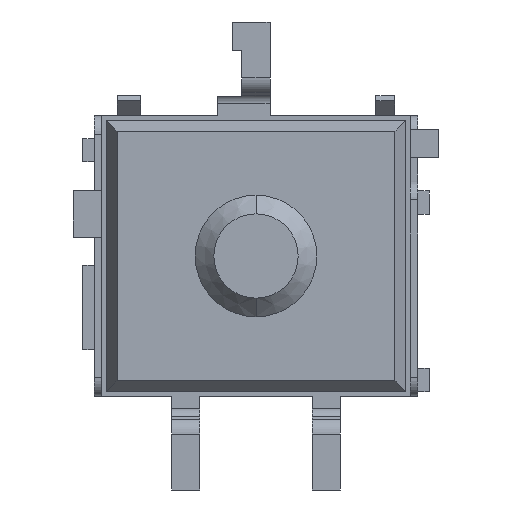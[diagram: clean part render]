
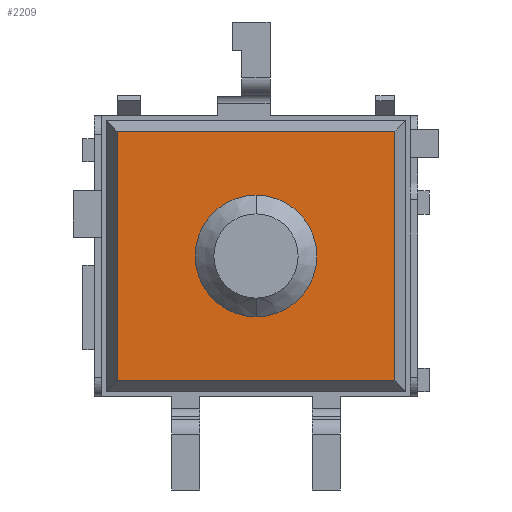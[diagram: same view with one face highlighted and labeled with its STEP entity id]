
A CAD part, front view. The second image highlights one B-rep face of the part: STEP entity #2209.
In plain terms, the highlighted planar face has unit normal (0, -1, 0).
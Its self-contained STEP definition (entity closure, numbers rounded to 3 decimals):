
#569 = VERTEX_POINT ( 'NONE', #5388 ) ;
#607 = VERTEX_POINT ( 'NONE', #5551 ) ;
#624 = VERTEX_POINT ( 'NONE', #5536 ) ;
#682 = VERTEX_POINT ( 'NONE', #4246 ) ;
#716 = VERTEX_POINT ( 'NONE', #4261 ) ;
#719 = VERTEX_POINT ( 'NONE', #2782 ) ;
#791 = LINE ( 'NONE', #3006, #805 ) ;
#805 = VECTOR ( 'NONE', #3009, 1000. ) ;
#817 = CIRCLE ( 'NONE', #6887, 0.65 ) ;
#909 = LINE ( 'NONE', #8429, #913 ) ;
#913 = VECTOR ( 'NONE', #8434, 1000. ) ;
#919 = CIRCLE ( 'NONE', #6891, 0.65 ) ;
#2209 = ADVANCED_FACE ( 'NONE', ( #5297, #7849 ), #2484, .T. ) ;
#2483 = CARTESIAN_POINT ( 'NONE',  ( -1.6, -0.2, -1.45 ) ) ;
#2484 = PLANE ( 'NONE',  #3276 ) ;
#2485 = DIRECTION ( 'NONE',  ( 0., -1., 0. ) ) ;
#2486 = DIRECTION ( 'NONE',  ( 0., 0., -1. ) ) ;
#2573 = EDGE_CURVE ( 'NONE', #569, #682, #791, .T. ) ;
#2578 = EDGE_CURVE ( 'NONE', #719, #624, #817, .T. ) ;
#2629 = EDGE_CURVE ( 'NONE', #569, #607, #909, .T. ) ;
#2631 = EDGE_CURVE ( 'NONE', #624, #719, #919, .T. ) ;
#2731 = EDGE_CURVE ( 'NONE', #716, #607, #4501, .T. ) ;
#2733 = EDGE_CURVE ( 'NONE', #682, #716, #4505, .T. ) ;
#2782 = CARTESIAN_POINT ( 'NONE',  ( 0., -0.2, 0.65 ) ) ;
#3006 = CARTESIAN_POINT ( 'NONE',  ( -1.485, -0.2, -1.45 ) ) ;
#3009 = DIRECTION ( 'NONE',  ( 0., 0., 1. ) ) ;
#3018 = CARTESIAN_POINT ( 'NONE',  ( 0., -0.2, 0. ) ) ;
#3020 = DIRECTION ( 'NONE',  ( 0., -1., 0. ) ) ;
#3021 = DIRECTION ( 'NONE',  ( 0., 0., -1. ) ) ;
#3276 = AXIS2_PLACEMENT_3D ( 'NONE', #2483, #2485, #2486 ) ;
#4196 = ORIENTED_EDGE ( 'NONE', *, *, #2578, .F. ) ;
#4197 = ORIENTED_EDGE ( 'NONE', *, *, #2631, .F. ) ;
#4246 = CARTESIAN_POINT ( 'NONE',  ( -1.485, -0.2, 1.335 ) ) ;
#4261 = CARTESIAN_POINT ( 'NONE',  ( 1.485, -0.2, 1.335 ) ) ;
#4490 = VECTOR ( 'NONE', #8924, 1000. ) ;
#4501 = LINE ( 'NONE', #8911, #4502 ) ;
#4502 = VECTOR ( 'NONE', #8913, 1000. ) ;
#4505 = LINE ( 'NONE', #8909, #4490 ) ;
#5297 = FACE_OUTER_BOUND ( 'NONE', #8477, .T. ) ;
#5388 = CARTESIAN_POINT ( 'NONE',  ( -1.485, -0.2, -1.335 ) ) ;
#5536 = CARTESIAN_POINT ( 'NONE',  ( 0., -0.2, -0.65 ) ) ;
#5551 = CARTESIAN_POINT ( 'NONE',  ( 1.485, -0.2, -1.335 ) ) ;
#5792 = ORIENTED_EDGE ( 'NONE', *, *, #2629, .T. ) ;
#5794 = ORIENTED_EDGE ( 'NONE', *, *, #2731, .F. ) ;
#6887 = AXIS2_PLACEMENT_3D ( 'NONE', #3018, #3020, #3021 ) ;
#6891 = AXIS2_PLACEMENT_3D ( 'NONE', #8440, #8444, #8446 ) ;
#7849 = FACE_BOUND ( 'NONE', #8470, .T. ) ;
#8344 = ORIENTED_EDGE ( 'NONE', *, *, #2733, .F. ) ;
#8345 = ORIENTED_EDGE ( 'NONE', *, *, #2573, .F. ) ;
#8429 = CARTESIAN_POINT ( 'NONE',  ( -1.65, -0.2, -1.335 ) ) ;
#8434 = DIRECTION ( 'NONE',  ( 1., 0., 0. ) ) ;
#8440 = CARTESIAN_POINT ( 'NONE',  ( 0., -0.2, 0. ) ) ;
#8444 = DIRECTION ( 'NONE',  ( 0., -1., 0. ) ) ;
#8446 = DIRECTION ( 'NONE',  ( 0., 0., -1. ) ) ;
#8470 = EDGE_LOOP ( 'NONE', ( #4196, #4197 ) ) ;
#8477 = EDGE_LOOP ( 'NONE', ( #8344, #8345, #5792, #5794 ) ) ;
#8909 = CARTESIAN_POINT ( 'NONE',  ( -1.65, -0.2, 1.335 ) ) ;
#8911 = CARTESIAN_POINT ( 'NONE',  ( 1.485, -0.2, -1.45 ) ) ;
#8913 = DIRECTION ( 'NONE',  ( 0., 0., -1. ) ) ;
#8924 = DIRECTION ( 'NONE',  ( 1., 0., 0. ) ) ;
